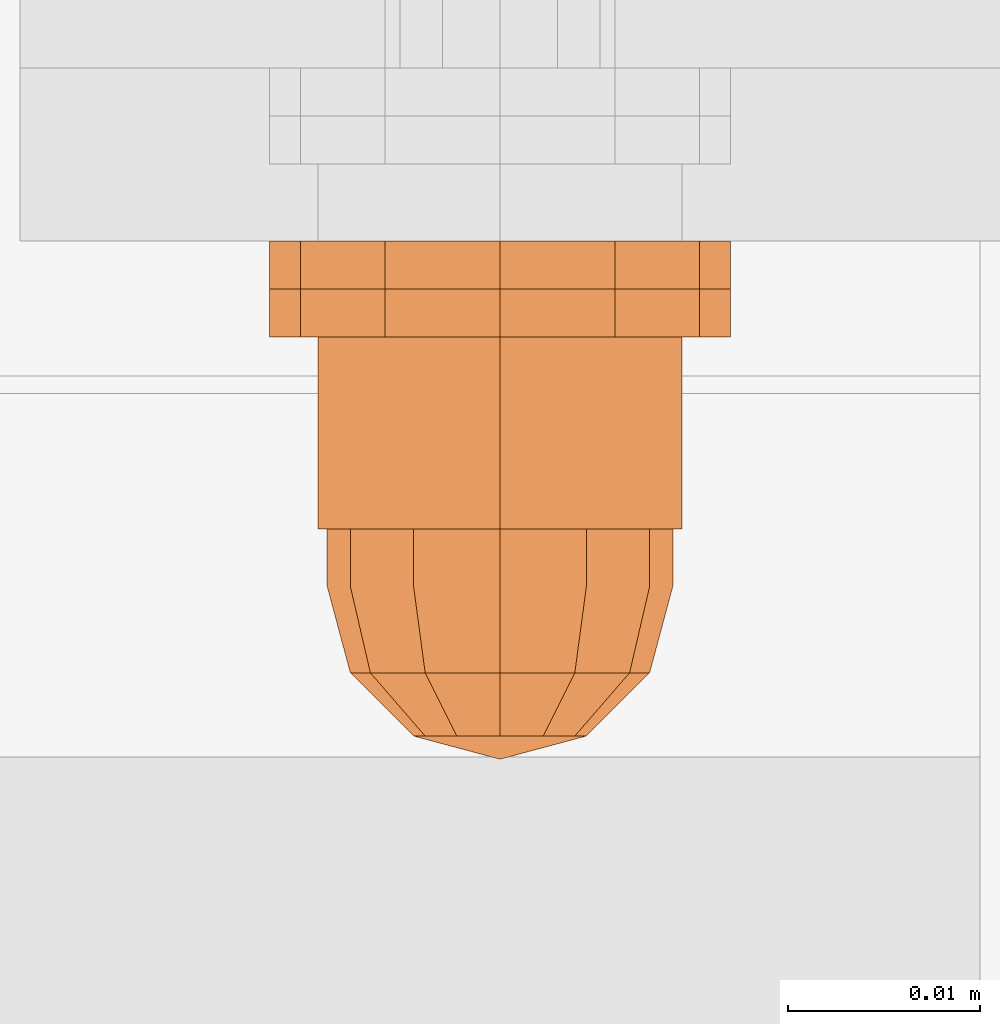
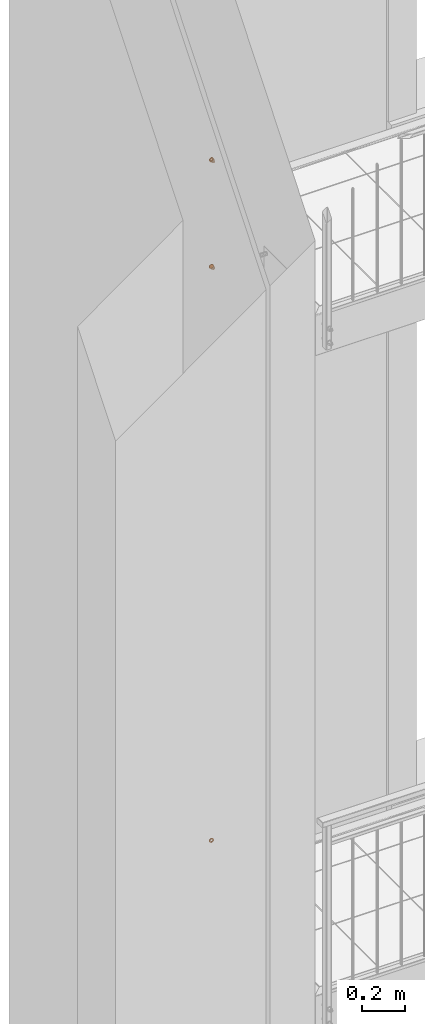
# One storey, part 137 of 162: 8 proxies.
"""IFC2X3 building model written with IfcOpenShell, lengths in millimetres."""

from ifc_helpers import new_model, entity, si_unit, converted_unit, origin_with_axes, place, context, project, spatial, faceted_brep, material, element, save


model = new_model("IFC2X3")

# Units and contexts
model_context = context("Model", 3, precision=1e-09, world=origin_with_axes())
ifc_project = project(units=[si_unit("LENGTHUNIT", "METRE", prefix="MILLI"), si_unit("AREAUNIT", "SQUARE_METRE"), si_unit("VOLUMEUNIT", "CUBIC_METRE"), converted_unit("PLANEANGLEUNIT", "DEGREE", entity("IfcPlaneAngleMeasure", 0.01745329), si_unit("PLANEANGLEUNIT", "RADIAN"), dimensions=[0, 0, 0, 0, 0, 0, 0])], contexts=[model_context])

# Site, building, storey
site_placement = place(None, origin_with_axes())
site = spatial("IfcSite", under=ifc_project, at=site_placement, Name="Hermannstra?e 1a, 60318 Frankfurt", CompositionType="ELEMENT")
building_placement = place(site_placement, origin_with_axes())
building = spatial("IfcBuilding", under=site, at=building_placement, Name="Struktur 1", CompositionType="ELEMENT")
storey_placement = place(building_placement, origin_with_axes())
storey = spatial("IfcBuildingStorey", under=building, at=storey_placement, Name="Default Storey", CompositionType="ELEMENT", Elevation=0.0)

# Proxies
ifc_material_1 = material(Name="Kunststoff")
proxy_1_placement = place(None, origin_with_axes())
element("IfcBuildingElementProxy", 1, at=proxy_1_placement, inside=storey, material=ifc_material_1, ObjectType="-", context=model_context, shape_type="Brep", body=[
    faceted_brep([(2688.700962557, 2708.108666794, 7899.0), (2688.700962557, 2710.608666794, 7899.0), (2690.308657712, 2710.608666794, 7905.0), (2690.308657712, 2708.108666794, 7905.0), (2684.308657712, 2710.608666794, 7894.607695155), (2678.308657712, 2710.608666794, 7893.0), (2672.308657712, 2710.608666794, 7894.607695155), (2667.916352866, 2710.608666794, 7899.0), (2666.308657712, 2710.608666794, 7905.0), (2667.916352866, 2710.608666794, 7911.0), (2672.308657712, 2710.608666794, 7915.392304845), (2678.308657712, 2710.608666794, 7917.0), (2684.308657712, 2710.608666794, 7915.392304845), (2688.700962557, 2710.608666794, 7911.0), (2681.558657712, 2710.608666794, 7899.370834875), (2683.937822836, 2710.608666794, 7901.75), (2684.808657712, 2710.608666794, 7905.0), (2683.937822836, 2710.608666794, 7908.25), (2681.558657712, 2710.608666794, 7910.629165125), (2678.308657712, 2710.608666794, 7911.5), (2675.058657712, 2710.608666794, 7910.629165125), (2672.679492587, 2710.608666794, 7908.25), (2671.808657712, 2710.608666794, 7905.0), (2672.679492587, 2710.608666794, 7901.75), (2675.058657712, 2710.608666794, 7899.370834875), (2678.308657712, 2710.608666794, 7898.5), (2684.808657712, 2708.108666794, 7905.0), (2683.937822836, 2708.108666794, 7901.75), (2684.308657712, 2708.108666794, 7894.607695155), (2688.700962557, 2708.108666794, 7911.0), (2684.308657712, 2708.108666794, 7915.392304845), (2678.308657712, 2708.108666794, 7917.0), (2672.308657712, 2708.108666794, 7915.392304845), (2667.916352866, 2708.108666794, 7911.0), (2666.308657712, 2708.108666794, 7905.0), (2667.916352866, 2708.108666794, 7899.0), (2672.308657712, 2708.108666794, 7894.607695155), (2678.308657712, 2708.108666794, 7893.0), (2681.558657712, 2708.108666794, 7899.370834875), (2678.308657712, 2708.108666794, 7898.5), (2675.058657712, 2708.108666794, 7899.370834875), (2672.679492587, 2708.108666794, 7901.75), (2671.808657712, 2708.108666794, 7905.0), (2672.679492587, 2708.108666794, 7908.25), (2675.058657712, 2708.108666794, 7910.629165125), (2678.308657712, 2708.108666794, 7911.5), (2681.558657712, 2708.108666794, 7910.629165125), (2683.937822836, 2708.108666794, 7908.25)], [[[0, 1, 2, 3]], [[1, 4, 5, 6, 7, 8, 9, 10, 11, 12, 13, 2], [14, 15, 16, 17, 18, 19, 20, 21, 22, 23, 24, 25]], [[26, 16, 15, 27]], [[28, 0, 3, 29, 30, 31, 32, 33, 34, 35, 36, 37], [26, 27, 38, 39, 40, 41, 42, 43, 44, 45, 46, 47]], [[1, 0, 28, 4]], [[16, 26, 47, 17]], [[3, 2, 13, 29]], [[27, 15, 14, 38]], [[4, 28, 37, 5]], [[17, 47, 46, 18]], [[29, 13, 12, 30]], [[38, 14, 25, 39]], [[18, 46, 45, 19]], [[5, 37, 36, 6]], [[39, 25, 24, 40]], [[30, 12, 11, 31]], [[19, 45, 44, 20]], [[6, 36, 35, 7]], [[40, 24, 23, 41]], [[31, 11, 10, 32]], [[20, 44, 43, 21]], [[7, 35, 34, 8]], [[41, 23, 22, 42]], [[32, 10, 9, 33]], [[21, 43, 42, 22]], [[8, 34, 33, 9]]]),
])
ifc_material_2 = material(Name="A4")
proxy_2_placement = place(None, origin_with_axes())
element("IfcBuildingElementProxy", 2, at=proxy_2_placement, inside=storey, material=ifc_material_2, ObjectType="-", context=model_context, shape_type="Brep", body=[
    faceted_brep([(2667.916352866, 2705.608666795, 7899.0), (2667.916352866, 2708.108666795, 7899.0), (2672.308657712, 2708.108666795, 7894.607695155), (2672.308657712, 2705.608666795, 7894.607695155), (2678.308657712, 2705.608666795, 7893.0), (2684.308657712, 2705.608666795, 7894.607695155), (2688.700962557, 2705.608666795, 7899.0), (2690.308657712, 2705.608666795, 7905.0), (2688.700962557, 2705.608666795, 7911.0), (2684.308657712, 2705.608666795, 7915.392304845), (2678.308657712, 2705.608666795, 7917.0), (2672.308657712, 2705.608666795, 7915.392304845), (2667.916352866, 2705.608666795, 7911.0), (2666.308657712, 2705.608666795, 7905.0), (2681.558657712, 2705.608666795, 7899.370834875), (2678.308657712, 2705.608666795, 7898.5), (2675.058657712, 2705.608666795, 7899.370834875), (2672.679492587, 2705.608666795, 7901.75), (2671.808657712, 2705.608666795, 7905.0), (2672.679492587, 2705.608666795, 7908.25), (2675.058657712, 2705.608666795, 7910.629165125), (2678.308657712, 2705.608666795, 7911.5), (2681.558657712, 2705.608666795, 7910.629165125), (2683.937822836, 2705.608666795, 7908.25), (2684.808657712, 2705.608666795, 7905.0), (2683.937822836, 2705.608666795, 7901.75), (2666.308657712, 2708.108666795, 7905.0), (2667.916352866, 2708.108666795, 7911.0), (2672.308657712, 2708.108666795, 7915.392304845), (2678.308657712, 2708.108666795, 7917.0), (2684.308657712, 2708.108666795, 7915.392304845), (2688.700962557, 2708.108666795, 7911.0), (2690.308657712, 2708.108666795, 7905.0), (2688.700962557, 2708.108666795, 7899.0), (2684.308657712, 2708.108666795, 7894.607695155), (2678.308657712, 2708.108666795, 7893.0), (2671.808657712, 2708.108666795, 7905.0), (2672.679492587, 2708.108666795, 7901.75), (2675.058657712, 2708.108666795, 7899.370834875), (2678.308657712, 2708.108666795, 7898.5), (2681.558657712, 2708.108666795, 7899.370834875), (2683.937822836, 2708.108666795, 7901.75), (2684.808657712, 2708.108666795, 7905.0), (2683.937822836, 2708.108666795, 7908.25), (2681.558657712, 2708.108666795, 7910.629165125), (2678.308657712, 2708.108666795, 7911.5), (2675.058657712, 2708.108666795, 7910.629165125), (2672.679492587, 2708.108666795, 7908.25)], [[[0, 1, 2, 3]], [[3, 4, 5, 6, 7, 8, 9, 10, 11, 12, 13, 0], [14, 15, 16, 17, 18, 19, 20, 21, 22, 23, 24, 25]], [[1, 26, 27, 28, 29, 30, 31, 32, 33, 34, 35, 2], [36, 37, 38, 39, 40, 41, 42, 43, 44, 45, 46, 47]], [[37, 17, 16, 38]], [[1, 0, 13, 26]], [[17, 37, 36, 18]], [[38, 16, 15, 39]], [[3, 2, 35, 4]], [[26, 13, 12, 27]], [[18, 36, 47, 19]], [[39, 15, 14, 40]], [[4, 35, 34, 5]], [[27, 12, 11, 28]], [[19, 47, 46, 20]], [[40, 14, 25, 41]], [[5, 34, 33, 6]], [[24, 42, 41, 25]], [[28, 11, 10, 29]], [[20, 46, 45, 21]], [[23, 43, 42, 24]], [[6, 33, 32, 7]], [[44, 22, 21, 45]], [[43, 23, 22, 44]], [[29, 10, 9, 30]], [[7, 32, 31, 8]], [[30, 9, 8, 31]]]),
])
proxy_3_placement = place(None, origin_with_axes())
element("IfcBuildingElementProxy", 3, at=proxy_3_placement, inside=storey, material=ifc_material_2, ObjectType="-", context=model_context, shape_type="Brep", body=[
    faceted_brep([(2684.308657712, 2705.608666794, 7905.0), (2684.308657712, 2695.608666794, 7905.0), (2683.504810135, 2695.608666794, 7908.0), (2683.504810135, 2705.608666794, 7908.0), (2681.308657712, 2695.608666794, 7910.196152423), (2681.308657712, 2705.608666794, 7910.196152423), (2683.504810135, 2705.608666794, 7902.0), (2683.504810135, 2695.608666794, 7902.0), (2687.788526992, 2705.608666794, 7899.526794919), (2678.308657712, 2705.608666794, 7894.053589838), (2668.828788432, 2705.608666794, 7899.526794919), (2668.828788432, 2705.608666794, 7910.473205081), (2678.308657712, 2705.608666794, 7915.946410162), (2687.788526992, 2705.608666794, 7910.473205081), (2681.308657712, 2705.608666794, 7899.803847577), (2678.308657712, 2705.608666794, 7911.0), (2675.308657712, 2705.608666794, 7910.196152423), (2673.112505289, 2705.608666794, 7908.0), (2672.308657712, 2705.608666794, 7905.0), (2673.112505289, 2705.608666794, 7902.0), (2675.308657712, 2705.608666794, 7899.803847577), (2678.308657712, 2705.608666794, 7899.0), (2678.308657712, 2695.608666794, 7894.053589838), (2687.788526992, 2695.608666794, 7899.526794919), (2687.788526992, 2695.608666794, 7910.473205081), (2678.308657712, 2695.608666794, 7915.946410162), (2668.828788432, 2695.608666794, 7910.473205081), (2668.828788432, 2695.608666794, 7899.526794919), (2681.308657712, 2695.608666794, 7899.803847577), (2678.308657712, 2695.608666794, 7899.0), (2675.308657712, 2695.608666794, 7899.803847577), (2673.112505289, 2695.608666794, 7902.0), (2672.308657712, 2695.608666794, 7905.0), (2673.112505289, 2695.608666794, 7908.0), (2675.308657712, 2695.608666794, 7910.196152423), (2678.308657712, 2695.608666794, 7911.0)], [[[0, 1, 2, 3]], [[3, 2, 4, 5]], [[1, 0, 6, 7]], [[8, 9, 10, 11, 12, 13], [14, 6, 0, 3, 5, 15, 16, 17, 18, 19, 20, 21]], [[22, 23, 24, 25, 26, 27], [1, 7, 28, 29, 30, 31, 32, 33, 34, 35, 4, 2]], [[7, 6, 14, 28]], [[24, 23, 8, 13]], [[5, 4, 35, 15]], [[13, 12, 25, 24]], [[28, 14, 21, 29]], [[23, 22, 9, 8]], [[15, 35, 34, 16]], [[12, 11, 26, 25]], [[29, 21, 20, 30]], [[22, 27, 10, 9]], [[16, 34, 33, 17]], [[27, 26, 11, 10]], [[30, 20, 19, 31]], [[17, 33, 32, 18]], [[31, 19, 18, 32]]]),
    faceted_brep([(2678.308657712, 2695.608666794, 7896.0), (2678.308657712, 2692.608666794, 7896.0), (2673.808657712, 2692.608666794, 7897.205771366), (2673.808657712, 2695.608666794, 7897.205771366), (2682.808657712, 2695.608666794, 7897.205771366), (2682.808657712, 2692.608666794, 7897.205771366), (2686.102886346, 2692.608666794, 7909.5), (2682.808657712, 2692.608666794, 7912.794228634), (2678.308657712, 2692.608666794, 7914.0), (2673.808657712, 2692.608666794, 7912.794228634), (2670.514429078, 2692.608666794, 7909.5), (2669.308657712, 2692.608666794, 7905.0), (2670.514429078, 2692.608666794, 7900.5), (2686.102886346, 2692.608666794, 7900.5), (2687.308657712, 2692.608666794, 7905.0), (2670.514429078, 2695.608666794, 7909.5), (2673.808657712, 2695.608666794, 7912.794228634), (2678.308657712, 2695.608666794, 7914.0), (2682.808657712, 2695.608666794, 7912.794228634), (2686.102886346, 2695.608666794, 7909.5), (2687.308657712, 2695.608666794, 7905.0), (2686.102886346, 2695.608666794, 7900.5), (2670.514429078, 2695.608666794, 7900.5), (2669.308657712, 2695.608666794, 7905.0)], [[[0, 1, 2, 3]], [[1, 0, 4, 5]], [[6, 7, 8, 9, 10, 11, 12, 2, 1, 5, 13, 14]], [[15, 16, 17, 18, 19, 20, 21, 4, 0, 3, 22, 23]], [[3, 2, 12, 22]], [[5, 4, 21, 13]], [[22, 12, 11, 23]], [[13, 21, 20, 14]], [[7, 18, 17, 8]], [[19, 6, 14, 20]], [[18, 7, 6, 19]], [[23, 11, 10, 15]], [[8, 17, 16, 9]], [[15, 10, 9, 16]]]),
    faceted_brep([(2686.102886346, 2692.608666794, 7900.5), (2685.058657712, 2688.108666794, 7901.102885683), (2682.205772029, 2688.108666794, 7898.25), (2682.808657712, 2692.608666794, 7897.205771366), (2670.514429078, 2692.608666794, 7909.5), (2673.808657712, 2692.608666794, 7912.794228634), (2678.308657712, 2692.608666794, 7914.0), (2682.808657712, 2692.608666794, 7912.794228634), (2686.102886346, 2692.608666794, 7909.5), (2687.308657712, 2692.608666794, 7905.0), (2678.308657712, 2692.608666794, 7896.0), (2673.808657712, 2692.608666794, 7897.205771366), (2670.514429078, 2692.608666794, 7900.5), (2669.308657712, 2692.608666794, 7905.0), (2678.308657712, 2688.108666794, 7897.205771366), (2686.102886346, 2688.108666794, 7905.0), (2682.808657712, 2684.81443816, 7905.0), (2682.205772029, 2684.81443816, 7902.75), (2674.411543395, 2688.108666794, 7898.25), (2680.558657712, 2684.81443816, 7901.102885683), (2685.058657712, 2688.108666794, 7908.897114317), (2682.205772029, 2684.81443816, 7907.25), (2678.308657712, 2684.81443816, 7900.5), (2678.308657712, 2683.608666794, 7905.0), (2682.205772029, 2688.108666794, 7911.75), (2680.558657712, 2684.81443816, 7908.897114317), (2678.308657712, 2688.108666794, 7912.794228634), (2671.558657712, 2688.108666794, 7901.102885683), (2676.058657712, 2684.81443816, 7901.102885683), (2678.308657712, 2684.81443816, 7909.5), (2674.411543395, 2688.108666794, 7911.75), (2676.058657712, 2684.81443816, 7908.897114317), (2670.514429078, 2688.108666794, 7905.0), (2674.411543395, 2684.81443816, 7902.75), (2671.558657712, 2688.108666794, 7908.897114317), (2674.411543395, 2684.81443816, 7907.25), (2673.808657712, 2684.81443816, 7905.0)], [[[0, 1, 2, 3]], [[4, 5, 6, 7, 8, 9, 0, 3, 10, 11, 12, 13]], [[3, 2, 14, 10]], [[15, 16, 17, 1]], [[1, 0, 9, 15]], [[10, 14, 18, 11]], [[1, 17, 19, 2]], [[16, 15, 20, 21]], [[2, 19, 22, 14]], [[23, 17, 16]], [[24, 25, 21, 20]], [[23, 16, 21]], [[24, 7, 6, 26]], [[20, 8, 7, 24]], [[15, 9, 8, 20]], [[11, 18, 27, 12]], [[14, 22, 28, 18]], [[23, 19, 17]], [[26, 29, 25, 24]], [[23, 21, 25]], [[23, 22, 19]], [[26, 6, 5, 30]], [[29, 26, 30, 31]], [[23, 25, 29]], [[12, 27, 32, 13]], [[18, 28, 33, 27]], [[23, 28, 22]], [[23, 29, 31]], [[23, 33, 28]], [[30, 5, 4, 34]], [[31, 30, 34, 35]], [[23, 31, 35]], [[13, 32, 34, 4]], [[27, 33, 36, 32]], [[23, 36, 33]], [[23, 35, 36]], [[35, 34, 32, 36]]]),
])
proxy_4_placement = place(None, origin_with_axes())
element("IfcBuildingElementProxy", 4, at=proxy_4_placement, inside=storey, material=ifc_material_2, ObjectType="-", context=model_context, shape_type="Brep", body=[
    faceted_brep([(2684.308657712, 2695.608666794, 7305.0), (2684.308657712, 2705.608666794, 7305.0), (2683.504810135, 2705.608666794, 7302.0), (2683.504810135, 2695.608666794, 7302.0), (2681.308657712, 2705.608666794, 7299.803847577), (2681.308657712, 2695.608666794, 7299.803847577), (2683.504810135, 2695.608666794, 7308.0), (2683.504810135, 2705.608666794, 7308.0), (2687.788526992, 2705.608666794, 7310.473205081), (2687.788526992, 2705.608666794, 7299.526794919), (2678.308657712, 2705.608666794, 7294.053589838), (2668.828788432, 2705.608666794, 7299.526794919), (2668.828788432, 2705.608666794, 7310.473205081), (2678.308657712, 2705.608666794, 7315.946410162), (2681.308657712, 2705.608666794, 7310.196152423), (2678.308657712, 2705.608666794, 7311.0), (2675.308657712, 2705.608666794, 7310.196152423), (2673.112505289, 2705.608666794, 7308.0), (2672.308657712, 2705.608666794, 7305.0), (2673.112505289, 2705.608666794, 7302.0), (2675.308657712, 2705.608666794, 7299.803847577), (2678.308657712, 2705.608666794, 7299.0), (2687.788526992, 2695.608666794, 7310.473205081), (2678.308657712, 2695.608666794, 7315.946410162), (2668.828788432, 2695.608666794, 7310.473205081), (2668.828788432, 2695.608666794, 7299.526794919), (2678.308657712, 2695.608666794, 7294.053589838), (2687.788526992, 2695.608666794, 7299.526794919), (2681.308657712, 2695.608666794, 7310.196152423), (2678.308657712, 2695.608666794, 7299.0), (2678.308657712, 2695.608666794, 7311.0), (2675.308657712, 2695.608666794, 7299.803847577), (2675.308657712, 2695.608666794, 7310.196152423), (2673.112505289, 2695.608666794, 7302.0), (2673.112505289, 2695.608666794, 7308.0), (2672.308657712, 2695.608666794, 7305.0)], [[[0, 1, 2, 3]], [[3, 2, 4, 5]], [[1, 0, 6, 7]], [[8, 9, 10, 11, 12, 13], [7, 14, 15, 16, 17, 18, 19, 20, 21, 4, 2, 1]], [[22, 23, 24, 25, 26, 27]], [[7, 6, 28, 14]], [[22, 27, 9, 8]], [[5, 4, 21, 29]], [[10, 9, 27, 26]], [[14, 28, 30, 15]], [[23, 22, 8, 13]], [[29, 21, 20, 31]], [[11, 10, 26, 25]], [[15, 30, 32, 16]], [[24, 23, 13, 12]], [[31, 20, 19, 33]], [[25, 24, 12, 11]], [[16, 32, 34, 17]], [[33, 19, 18, 35]], [[17, 34, 35, 18]]]),
    faceted_brep([(2678.308657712, 2692.608666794, 7314.0), (2678.308657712, 2695.608666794, 7314.0), (2673.808657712, 2695.608666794, 7312.794228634), (2673.808657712, 2692.608666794, 7312.794228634), (2682.808657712, 2692.608666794, 7312.794228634), (2682.808657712, 2695.608666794, 7312.794228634), (2682.808657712, 2692.608666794, 7297.205771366), (2686.102886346, 2692.608666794, 7300.5), (2687.308657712, 2692.608666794, 7305.0), (2686.102886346, 2692.608666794, 7309.5), (2670.514429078, 2692.608666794, 7309.5), (2669.308657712, 2692.608666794, 7305.0), (2670.514429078, 2692.608666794, 7300.5), (2673.808657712, 2692.608666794, 7297.205771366), (2678.308657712, 2692.608666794, 7296.0), (2673.808657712, 2695.608666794, 7297.205771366), (2670.514429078, 2695.608666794, 7300.5), (2669.308657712, 2695.608666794, 7305.0), (2670.514429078, 2695.608666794, 7309.5), (2686.102886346, 2695.608666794, 7309.5), (2687.308657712, 2695.608666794, 7305.0), (2686.102886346, 2695.608666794, 7300.5), (2682.808657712, 2695.608666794, 7297.205771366), (2678.308657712, 2695.608666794, 7296.0)], [[[0, 1, 2, 3]], [[1, 0, 4, 5]], [[6, 7, 8, 9, 4, 0, 3, 10, 11, 12, 13, 14]], [[15, 16, 17, 18, 2, 1, 5, 19, 20, 21, 22, 23]], [[3, 2, 18, 10]], [[5, 4, 9, 19]], [[10, 18, 17, 11]], [[19, 9, 8, 20]], [[22, 6, 14, 23]], [[7, 21, 20, 8]], [[6, 22, 21, 7]], [[11, 17, 16, 12]], [[23, 14, 13, 15]], [[12, 16, 15, 13]]]),
    faceted_brep([(2685.058657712, 2688.108666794, 7308.897114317), (2686.102886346, 2692.608666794, 7309.5), (2682.808657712, 2692.608666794, 7312.794228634), (2682.205772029, 2688.108666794, 7311.75), (2673.808657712, 2692.608666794, 7297.205771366), (2670.514429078, 2692.608666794, 7300.5), (2669.308657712, 2692.608666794, 7305.0), (2670.514429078, 2692.608666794, 7309.5), (2673.808657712, 2692.608666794, 7312.794228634), (2678.308657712, 2692.608666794, 7314.0), (2687.308657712, 2692.608666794, 7305.0), (2686.102886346, 2692.608666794, 7300.5), (2682.808657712, 2692.608666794, 7297.205771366), (2678.308657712, 2692.608666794, 7296.0), (2678.308657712, 2688.108666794, 7312.794228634), (2682.808657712, 2684.81443816, 7305.0), (2686.102886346, 2688.108666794, 7305.0), (2682.205772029, 2684.81443816, 7307.25), (2674.411543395, 2688.108666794, 7311.75), (2680.558657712, 2684.81443816, 7308.897114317), (2682.205772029, 2684.81443816, 7302.75), (2685.058657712, 2688.108666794, 7301.102885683), (2678.308657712, 2684.81443816, 7309.5), (2678.308657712, 2683.608666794, 7305.0), (2680.558657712, 2684.81443816, 7301.102885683), (2682.205772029, 2688.108666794, 7298.25), (2678.308657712, 2688.108666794, 7297.205771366), (2671.558657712, 2688.108666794, 7308.897114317), (2676.058657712, 2684.81443816, 7308.897114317), (2678.308657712, 2684.81443816, 7300.5), (2674.411543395, 2688.108666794, 7298.25), (2676.058657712, 2684.81443816, 7301.102885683), (2670.514429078, 2688.108666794, 7305.0), (2674.411543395, 2684.81443816, 7307.25), (2671.558657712, 2688.108666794, 7301.102885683), (2674.411543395, 2684.81443816, 7302.75), (2673.808657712, 2684.81443816, 7305.0)], [[[0, 1, 2, 3]], [[4, 5, 6, 7, 8, 9, 2, 1, 10, 11, 12, 13]], [[3, 2, 9, 14]], [[15, 16, 0, 17]], [[1, 0, 16, 10]], [[14, 9, 8, 18]], [[17, 0, 3, 19]], [[16, 15, 20, 21]], [[19, 3, 14, 22]], [[17, 23, 15]], [[24, 25, 21, 20]], [[15, 23, 20]], [[12, 25, 26, 13]], [[11, 21, 25, 12]], [[10, 16, 21, 11]], [[18, 8, 7, 27]], [[22, 14, 18, 28]], [[19, 23, 17]], [[29, 26, 25, 24]], [[20, 23, 24]], [[22, 23, 19]], [[13, 26, 30, 4]], [[26, 29, 31, 30]], [[24, 23, 29]], [[27, 7, 6, 32]], [[28, 18, 27, 33]], [[28, 23, 22]], [[29, 23, 31]], [[33, 23, 28]], [[4, 30, 34, 5]], [[30, 31, 35, 34]], [[31, 23, 35]], [[32, 6, 5, 34]], [[33, 27, 32, 36]], [[36, 23, 33]], [[35, 23, 36]], [[34, 35, 36, 32]]]),
])
proxy_5_placement = place(None, origin_with_axes())
element("IfcBuildingElementProxy", 5, at=proxy_5_placement, inside=storey, material=ifc_material_2, ObjectType="-", context=model_context, shape_type="Brep", body=[
    faceted_brep([(2667.916352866, 2708.108666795, 7311.0), (2667.916352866, 2705.608666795, 7311.0), (2672.308657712, 2705.608666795, 7315.392304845), (2672.308657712, 2708.108666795, 7315.392304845), (2666.308657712, 2705.608666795, 7305.0), (2667.916352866, 2705.608666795, 7299.0), (2672.308657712, 2705.608666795, 7294.607695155), (2678.308657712, 2705.608666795, 7293.0), (2684.308657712, 2705.608666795, 7294.607695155), (2688.700962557, 2705.608666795, 7299.0), (2690.308657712, 2705.608666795, 7305.0), (2688.700962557, 2705.608666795, 7311.0), (2684.308657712, 2705.608666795, 7315.392304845), (2678.308657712, 2705.608666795, 7317.0), (2678.308657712, 2705.608666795, 7311.5), (2681.558657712, 2705.608666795, 7310.629165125), (2683.937822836, 2705.608666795, 7308.25), (2684.808657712, 2705.608666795, 7305.0), (2683.937822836, 2705.608666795, 7301.75), (2681.558657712, 2705.608666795, 7299.370834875), (2678.308657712, 2705.608666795, 7298.5), (2675.058657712, 2705.608666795, 7299.370834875), (2672.679492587, 2705.608666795, 7301.75), (2671.808657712, 2705.608666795, 7305.0), (2672.679492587, 2705.608666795, 7308.25), (2675.058657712, 2705.608666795, 7310.629165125), (2672.679492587, 2708.108666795, 7308.25), (2671.808657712, 2708.108666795, 7305.0), (2672.679492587, 2708.108666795, 7301.75), (2675.058657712, 2708.108666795, 7299.370834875), (2678.308657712, 2708.108666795, 7298.5), (2681.558657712, 2708.108666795, 7299.370834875), (2683.937822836, 2708.108666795, 7301.75), (2684.808657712, 2708.108666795, 7305.0), (2683.937822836, 2708.108666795, 7308.25), (2681.558657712, 2708.108666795, 7310.629165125), (2678.308657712, 2708.108666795, 7311.5), (2675.058657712, 2708.108666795, 7310.629165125), (2666.308657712, 2708.108666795, 7305.0), (2678.308657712, 2708.108666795, 7317.0), (2667.916352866, 2708.108666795, 7299.0), (2684.308657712, 2708.108666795, 7315.392304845), (2672.308657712, 2708.108666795, 7294.607695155), (2688.700962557, 2708.108666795, 7311.0), (2678.308657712, 2708.108666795, 7293.0), (2690.308657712, 2708.108666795, 7305.0), (2684.308657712, 2708.108666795, 7294.607695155), (2688.700962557, 2708.108666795, 7299.0)], [[[0, 1, 2, 3]], [[2, 1, 4, 5, 6, 7, 8, 9, 10, 11, 12, 13], [14, 15, 16, 17, 18, 19, 20, 21, 22, 23, 24, 25]], [[26, 27, 28, 29, 30, 31, 32, 33, 34, 35, 36, 37]], [[24, 26, 37, 25]], [[1, 0, 38, 4]], [[26, 24, 23, 27]], [[25, 37, 36, 14]], [[3, 2, 13, 39]], [[4, 38, 40, 5]], [[27, 23, 22, 28]], [[14, 36, 35, 15]], [[39, 13, 12, 41]], [[5, 40, 42, 6]], [[28, 22, 21, 29]], [[15, 35, 34, 16]], [[41, 12, 11, 43]], [[33, 17, 16, 34]], [[6, 42, 44, 7]], [[29, 21, 20, 30]], [[32, 18, 17, 33]], [[43, 11, 10, 45]], [[19, 31, 30, 20]], [[18, 32, 31, 19]], [[7, 44, 46, 8]], [[45, 10, 9, 47]], [[8, 46, 47, 9]]]),
])
proxy_6_placement = place(None, origin_with_axes())
element("IfcBuildingElementProxy", 6, at=proxy_6_placement, inside=storey, material=ifc_material_1, ObjectType="-", context=model_context, shape_type="Brep", body=[
    faceted_brep([(2688.700962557, 2710.608666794, 7311.0), (2688.700962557, 2708.108666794, 7311.0), (2690.308657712, 2708.108666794, 7305.0), (2690.308657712, 2710.608666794, 7305.0), (2683.937822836, 2710.608666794, 7308.25), (2681.558657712, 2710.608666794, 7310.629165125), (2678.308657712, 2710.608666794, 7311.5), (2675.058657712, 2710.608666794, 7310.629165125), (2672.679492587, 2710.608666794, 7308.25), (2671.808657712, 2710.608666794, 7305.0), (2672.679492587, 2710.608666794, 7301.75), (2675.058657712, 2710.608666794, 7299.370834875), (2678.308657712, 2710.608666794, 7298.5), (2681.558657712, 2710.608666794, 7299.370834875), (2683.937822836, 2710.608666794, 7301.75), (2684.808657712, 2710.608666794, 7305.0), (2684.808657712, 2708.108666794, 7305.0), (2683.937822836, 2708.108666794, 7308.25), (2684.308657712, 2708.108666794, 7315.392304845), (2678.308657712, 2708.108666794, 7317.0), (2672.308657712, 2708.108666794, 7315.392304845), (2667.916352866, 2708.108666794, 7311.0), (2666.308657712, 2708.108666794, 7305.0), (2667.916352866, 2708.108666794, 7299.0), (2672.308657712, 2708.108666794, 7294.607695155), (2678.308657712, 2708.108666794, 7293.0), (2684.308657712, 2708.108666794, 7294.607695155), (2688.700962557, 2708.108666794, 7299.0), (2684.308657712, 2710.608666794, 7315.392304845), (2683.937822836, 2708.108666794, 7301.75), (2688.700962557, 2710.608666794, 7299.0), (2681.558657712, 2708.108666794, 7310.629165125), (2678.308657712, 2710.608666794, 7317.0), (2681.558657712, 2708.108666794, 7299.370834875), (2684.308657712, 2710.608666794, 7294.607695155), (2678.308657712, 2708.108666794, 7311.5), (2678.308657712, 2708.108666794, 7298.5), (2672.308657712, 2710.608666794, 7315.392304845), (2675.058657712, 2708.108666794, 7310.629165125), (2678.308657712, 2710.608666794, 7293.0), (2675.058657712, 2708.108666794, 7299.370834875), (2667.916352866, 2710.608666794, 7311.0), (2672.679492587, 2708.108666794, 7308.25), (2672.308657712, 2710.608666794, 7294.607695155), (2672.679492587, 2708.108666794, 7301.75), (2666.308657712, 2710.608666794, 7305.0), (2671.808657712, 2708.108666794, 7305.0), (2667.916352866, 2710.608666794, 7299.0)], [[[0, 1, 2, 3]], [[4, 5, 6, 7, 8, 9, 10, 11, 12, 13, 14, 15]], [[15, 16, 17, 4]], [[1, 18, 19, 20, 21, 22, 23, 24, 25, 26, 27, 2]], [[1, 0, 28, 18]], [[16, 15, 14, 29]], [[3, 2, 27, 30]], [[4, 17, 31, 5]], [[18, 28, 32, 19]], [[29, 14, 13, 33]], [[30, 27, 26, 34]], [[5, 31, 35, 6]], [[33, 13, 12, 36]], [[19, 32, 37, 20]], [[6, 35, 38, 7]], [[34, 26, 25, 39]], [[36, 12, 11, 40]], [[20, 37, 41, 21]], [[7, 38, 42, 8]], [[39, 25, 24, 43]], [[40, 11, 10, 44]], [[21, 41, 45, 22]], [[8, 42, 46, 9]], [[43, 24, 23, 47]], [[44, 10, 9, 46]], [[22, 45, 47, 23]]]),
])
proxy_7_placement = place(None, origin_with_axes())
element("IfcBuildingElementProxy", 7, at=proxy_7_placement, inside=storey, material=ifc_material_1, ObjectType="-", context=model_context, shape_type="Brep", body=[
    faceted_brep([(2688.702376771, 2708.110081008, 4074.0), (2688.702376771, 2710.610081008, 4074.0), (2690.310071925, 2710.610081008, 4080.0), (2690.310071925, 2708.110081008, 4080.0), (2684.310071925, 2710.610081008, 4069.607695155), (2678.310071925, 2710.610081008, 4068.0), (2672.310071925, 2710.610081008, 4069.607695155), (2667.91776708, 2710.610081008, 4074.0), (2666.310071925, 2710.610081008, 4080.0), (2667.91776708, 2710.610081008, 4086.0), (2672.310071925, 2710.610081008, 4090.392304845), (2678.310071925, 2710.610081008, 4092.0), (2684.310071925, 2710.610081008, 4090.392304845), (2688.702376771, 2710.610081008, 4086.0), (2681.560071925, 2710.610081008, 4074.370834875), (2683.93923705, 2710.610081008, 4076.75), (2684.810071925, 2710.610081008, 4080.0), (2683.93923705, 2710.610081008, 4083.25), (2681.560071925, 2710.610081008, 4085.629165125), (2678.310071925, 2710.610081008, 4086.5), (2675.060071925, 2710.610081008, 4085.629165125), (2672.680906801, 2710.610081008, 4083.25), (2671.810071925, 2710.610081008, 4080.0), (2672.680906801, 2710.610081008, 4076.75), (2675.060071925, 2710.610081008, 4074.370834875), (2678.310071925, 2710.610081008, 4073.5), (2684.810071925, 2708.110081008, 4080.0), (2683.93923705, 2708.110081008, 4076.75), (2684.310071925, 2708.110081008, 4069.607695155), (2688.702376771, 2708.110081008, 4086.0), (2684.310071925, 2708.110081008, 4090.392304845), (2678.310071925, 2708.110081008, 4092.0), (2672.310071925, 2708.110081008, 4090.392304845), (2667.91776708, 2708.110081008, 4086.0), (2666.310071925, 2708.110081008, 4080.0), (2667.91776708, 2708.110081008, 4074.0), (2672.310071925, 2708.110081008, 4069.607695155), (2678.310071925, 2708.110081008, 4068.0), (2681.560071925, 2708.110081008, 4074.370834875), (2678.310071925, 2708.110081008, 4073.5), (2675.060071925, 2708.110081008, 4074.370834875), (2672.680906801, 2708.110081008, 4076.75), (2671.810071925, 2708.110081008, 4080.0), (2672.680906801, 2708.110081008, 4083.25), (2675.060071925, 2708.110081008, 4085.629165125), (2678.310071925, 2708.110081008, 4086.5), (2681.560071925, 2708.110081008, 4085.629165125), (2683.93923705, 2708.110081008, 4083.25)], [[[0, 1, 2, 3]], [[1, 4, 5, 6, 7, 8, 9, 10, 11, 12, 13, 2], [14, 15, 16, 17, 18, 19, 20, 21, 22, 23, 24, 25]], [[26, 16, 15, 27]], [[28, 0, 3, 29, 30, 31, 32, 33, 34, 35, 36, 37], [26, 27, 38, 39, 40, 41, 42, 43, 44, 45, 46, 47]], [[1, 0, 28, 4]], [[16, 26, 47, 17]], [[3, 2, 13, 29]], [[27, 15, 14, 38]], [[4, 28, 37, 5]], [[17, 47, 46, 18]], [[29, 13, 12, 30]], [[38, 14, 25, 39]], [[18, 46, 45, 19]], [[5, 37, 36, 6]], [[39, 25, 24, 40]], [[30, 12, 11, 31]], [[19, 45, 44, 20]], [[6, 36, 35, 7]], [[40, 24, 23, 41]], [[31, 11, 10, 32]], [[20, 44, 43, 21]], [[7, 35, 34, 8]], [[41, 23, 22, 42]], [[32, 10, 9, 33]], [[21, 43, 42, 22]], [[8, 34, 33, 9]]]),
])
proxy_8_placement = place(None, origin_with_axes())
element("IfcBuildingElementProxy", 8, at=proxy_8_placement, inside=storey, material=ifc_material_2, ObjectType="-", context=model_context, shape_type="Brep", body=[
    faceted_brep([(2667.91776708, 2705.610081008, 4074.0), (2667.91776708, 2708.110081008, 4074.0), (2672.310071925, 2708.110081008, 4069.607695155), (2672.310071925, 2705.610081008, 4069.607695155), (2678.310071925, 2705.610081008, 4068.0), (2684.310071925, 2705.610081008, 4069.607695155), (2688.702376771, 2705.610081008, 4074.0), (2690.310071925, 2705.610081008, 4080.0), (2688.702376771, 2705.610081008, 4086.0), (2684.310071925, 2705.610081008, 4090.392304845), (2678.310071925, 2705.610081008, 4092.0), (2672.310071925, 2705.610081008, 4090.392304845), (2667.91776708, 2705.610081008, 4086.0), (2666.310071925, 2705.610081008, 4080.0), (2681.560071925, 2705.610081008, 4074.370834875), (2678.310071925, 2705.610081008, 4073.5), (2675.060071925, 2705.610081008, 4074.370834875), (2672.680906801, 2705.610081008, 4076.75), (2671.810071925, 2705.610081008, 4080.0), (2672.680906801, 2705.610081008, 4083.25), (2675.060071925, 2705.610081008, 4085.629165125), (2678.310071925, 2705.610081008, 4086.5), (2681.560071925, 2705.610081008, 4085.629165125), (2683.93923705, 2705.610081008, 4083.25), (2684.810071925, 2705.610081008, 4080.0), (2683.93923705, 2705.610081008, 4076.75), (2666.310071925, 2708.110081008, 4080.0), (2667.91776708, 2708.110081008, 4086.0), (2672.310071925, 2708.110081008, 4090.392304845), (2678.310071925, 2708.110081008, 4092.0), (2684.310071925, 2708.110081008, 4090.392304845), (2688.702376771, 2708.110081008, 4086.0), (2690.310071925, 2708.110081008, 4080.0), (2688.702376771, 2708.110081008, 4074.0), (2684.310071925, 2708.110081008, 4069.607695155), (2678.310071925, 2708.110081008, 4068.0), (2671.810071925, 2708.110081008, 4080.0), (2672.680906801, 2708.110081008, 4076.75), (2675.060071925, 2708.110081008, 4074.370834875), (2678.310071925, 2708.110081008, 4073.5), (2681.560071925, 2708.110081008, 4074.370834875), (2683.93923705, 2708.110081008, 4076.75), (2684.810071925, 2708.110081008, 4080.0), (2683.93923705, 2708.110081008, 4083.25), (2681.560071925, 2708.110081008, 4085.629165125), (2678.310071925, 2708.110081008, 4086.5), (2675.060071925, 2708.110081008, 4085.629165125), (2672.680906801, 2708.110081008, 4083.25)], [[[0, 1, 2, 3]], [[3, 4, 5, 6, 7, 8, 9, 10, 11, 12, 13, 0], [14, 15, 16, 17, 18, 19, 20, 21, 22, 23, 24, 25]], [[1, 26, 27, 28, 29, 30, 31, 32, 33, 34, 35, 2], [36, 37, 38, 39, 40, 41, 42, 43, 44, 45, 46, 47]], [[37, 17, 16, 38]], [[1, 0, 13, 26]], [[17, 37, 36, 18]], [[38, 16, 15, 39]], [[3, 2, 35, 4]], [[26, 13, 12, 27]], [[18, 36, 47, 19]], [[39, 15, 14, 40]], [[4, 35, 34, 5]], [[27, 12, 11, 28]], [[19, 47, 46, 20]], [[40, 14, 25, 41]], [[5, 34, 33, 6]], [[24, 42, 41, 25]], [[28, 11, 10, 29]], [[20, 46, 45, 21]], [[23, 43, 42, 24]], [[6, 33, 32, 7]], [[44, 22, 21, 45]], [[43, 23, 22, 44]], [[29, 10, 9, 30]], [[7, 32, 31, 8]], [[30, 9, 8, 31]]]),
])

save(model, "model.ifc")
